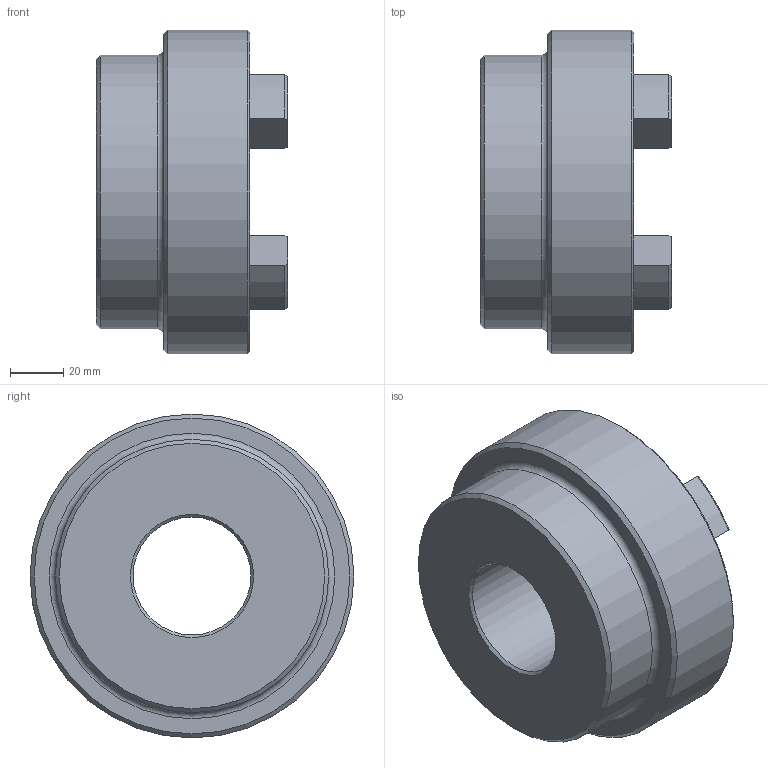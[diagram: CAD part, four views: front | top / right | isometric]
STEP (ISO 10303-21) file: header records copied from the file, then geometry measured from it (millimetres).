
FILE_DESCRIPTION (( 'STEP AP203' ), '1' );
FILE_NAME ('RC5.step', '2024-07-25T13:36:36', ( 'Adlan' ), ( '' ), 'SwSTEP 2.0', 'SolidWorks 2013', '' );
FILE_SCHEMA (( 'CONFIG_CONTROL_DESIGN' ));
Length unit declared in the file: inch
Products named in the file (1): RC5
Bounding box: 72.14 x 122.17 x 122.17 mm (x, y, z)
Volume: 415624.7 mm3; surface area: 58348.8 mm2
Topology: 1 solids, 1 shells, 76 faces, 189 edges, 117 vertices
Faces by surface type: cylinder 31, torus 17, plane 16, cone 12
Full cylindrical faces by diameter (mm): 44.463 x1, 103.124 x1, 122.174 x1
Entity records: 2349 total; most frequent: CARTESIAN_POINT 443, DIRECTION 416, ORIENTED_EDGE 358, EDGE_CURVE 179, AXIS2_PLACEMENT_3D 168, VERTEX_POINT 115, CIRCLE 91, EDGE_LOOP 88
